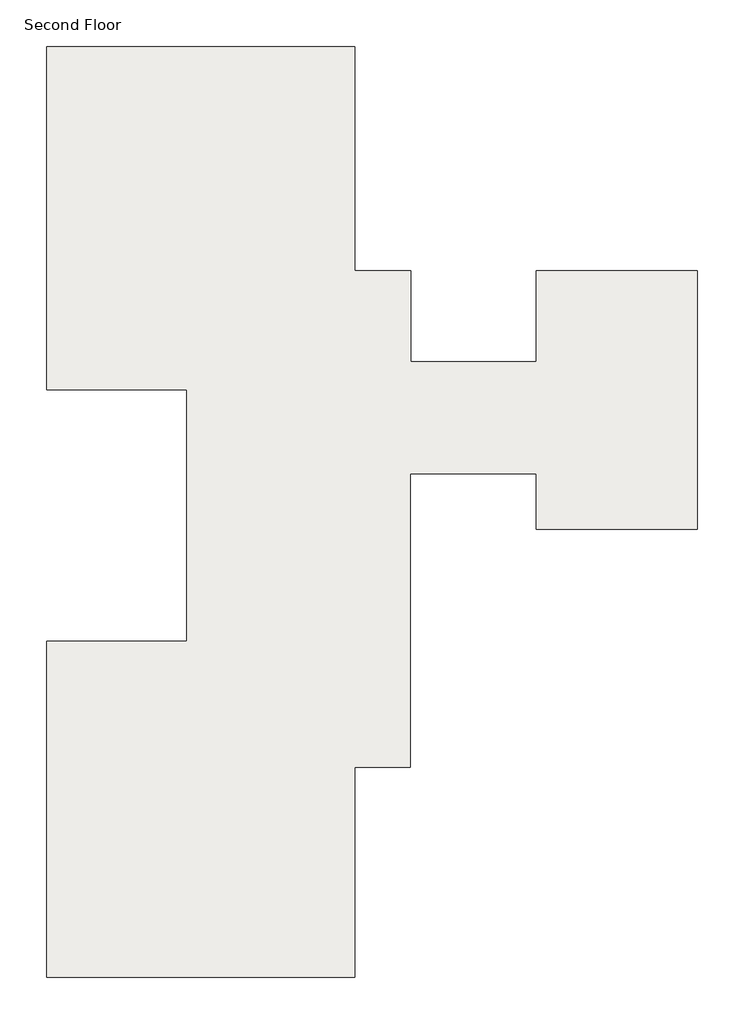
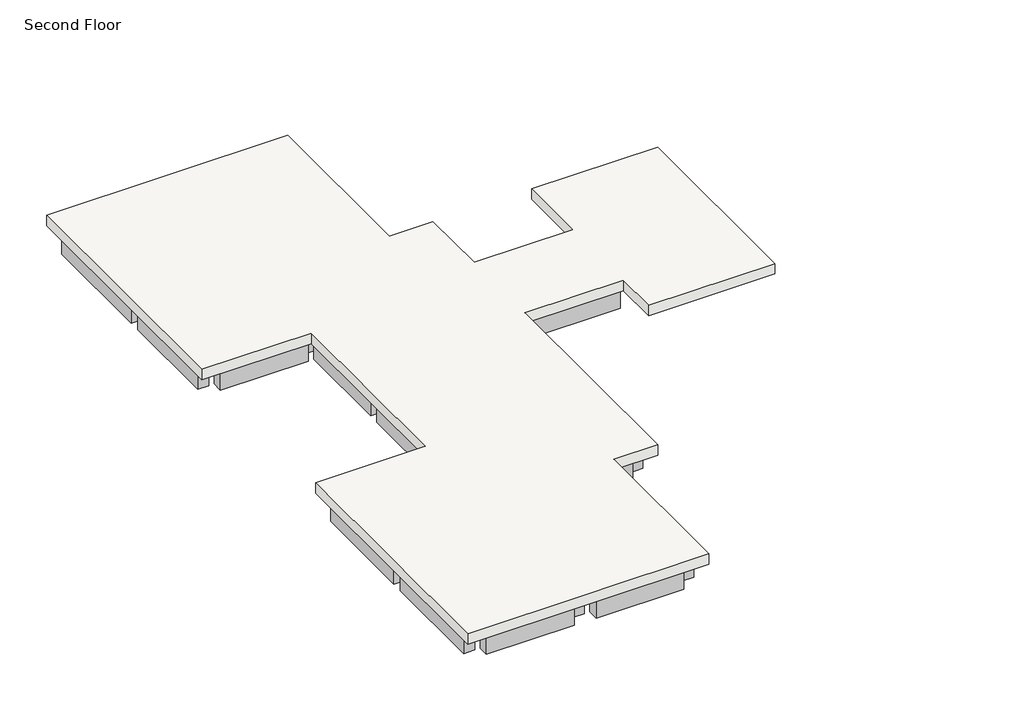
# One storey: 37 beams, 1 slab.
"""IFC4 building model written with IfcOpenShell, lengths in millimetres."""

from ifc_helpers import new_model, si_unit, frame, origin, place, context, project, spatial, polyline, outline, extrude, faceted_brep, element, save

model = new_model("IFC4")

# Units and contexts
model_context = context("Model", 3, world=origin())
ifc_project = project(units=[si_unit("LENGTHUNIT", "METRE", prefix="MILLI")], contexts=[model_context])

# Site, building, storey
site = spatial("IfcSite", under=ifc_project)
building = spatial("IfcBuilding", under=site)
storey = spatial("IfcBuildingStorey", under=building, Name="Second Floor", Elevation=3810.0)

# Beams
placement = place(None, origin())
element("IfcBeam", 1, ObjectType="Concrete-Rectangular Beam : 12 x 24", at=placement, inside=storey, context=model_context, shape_type="SweptSolid", body=[
    extrude(outline(polyline([(-12861.5073204, 23464.2572372), (-12861.5073204, 23769.0572372), (-10423.1073204, 23769.0572372), (-10423.1073204, 23464.2572372), (-12861.5073204, 23464.2572372)])), frame((0.0, 0.0, 2895.6), z_axis=(0.0, 0.0, 1.0), x_axis=(1.0, 0.0, 0.0)), (0.0, 0.0, 1.0), 609.6),
])
element("IfcBeam", 2, ObjectType="Concrete-Rectangular Beam : 12 x 24", at=placement, inside=storey, context=model_context, shape_type="SweptSolid", body=[
    extrude(outline(polyline([(-9813.5073204, 23464.2572372), (-9813.5073204, 23769.0572372), (-7375.1073204, 23769.0572372), (-7375.1073204, 23464.2572372), (-9813.5073204, 23464.2572372)])), frame((0.0, 0.0, 2895.6), z_axis=(0.0, 0.0, 1.0), x_axis=(1.0, 0.0, 0.0)), (0.0, 0.0, 1.0), 609.6),
])
element("IfcBeam", 3, ObjectType="Concrete-Rectangular Beam : 12 x 24", at=placement, inside=storey, context=model_context, shape_type="SweptSolid", body=[
    extrude(outline(polyline([(-7222.7073204, 23464.2572372), (-6917.9073204, 23464.2572372), (-6917.9073204, 20111.4572372), (-7222.7073204, 20111.4572372), (-7222.7073204, 23464.2572372)])), frame((0.0, 0.0, 2895.6), z_axis=(0.0, 0.0, 1.0), x_axis=(1.0, 0.0, 0.0)), (0.0, 0.0, 1.0), 609.6),
])
element("IfcBeam", 4, ObjectType="Concrete-Rectangular Beam : 12 x 24", at=placement, inside=storey, context=model_context, shape_type="SweptSolid", body=[
    extrude(outline(polyline([(-10270.7073204, 23464.2572372), (-9965.9073204, 23464.2572372), (-9965.9073204, 20111.4572372), (-10270.7073204, 20111.4572372), (-10270.7073204, 23464.2572372)])), frame((0.0, 0.0, 2895.6), z_axis=(0.0, 0.0, 1.0), x_axis=(1.0, 0.0, 0.0)), (0.0, 0.0, 1.0), 609.6),
])
element("IfcBeam", 5, ObjectType="Concrete-Rectangular Beam : 12 x 24", at=placement, inside=storey, context=model_context, shape_type="SweptSolid", body=[
    extrude(outline(polyline([(-13318.7073204, 23464.2572372), (-13013.9073204, 23464.2572372), (-13013.9073204, 20111.4572372), (-13318.7073204, 20111.4572372), (-13318.7073204, 23464.2572372)])), frame((0.0, 0.0, 2895.6), z_axis=(0.0, 0.0, 1.0), x_axis=(1.0, 0.0, 0.0)), (0.0, 0.0, 1.0), 609.6),
])
element("IfcBeam", 6, ObjectType="Concrete-Rectangular Beam : 12 x 24", at=placement, inside=storey, context=model_context, shape_type="SweptSolid", body=[
    extrude(outline(polyline([(-12861.5073204, 19806.6572372), (-12861.5073204, 20111.4572372), (-10423.1073204, 20111.4572372), (-10423.1073204, 19806.6572372), (-12861.5073204, 19806.6572372)])), frame((0.0, 0.0, 2895.6), z_axis=(0.0, 0.0, 1.0), x_axis=(1.0, 0.0, 0.0)), (0.0, 0.0, 1.0), 609.6),
])
element("IfcBeam", 7, ObjectType="Concrete-Rectangular Beam : 12 x 24", at=placement, inside=storey, context=model_context, shape_type="SweptSolid", body=[
    extrude(outline(polyline([(-9813.5073204, 19806.6572372), (-9813.5073204, 20111.4572372), (-7375.1073204, 20111.4572372), (-7375.1073204, 19806.6572372), (-9813.5073204, 19806.6572372)])), frame((0.0, 0.0, 2895.6), z_axis=(0.0, 0.0, 1.0), x_axis=(1.0, 0.0, 0.0)), (0.0, 0.0, 1.0), 609.6),
])
element("IfcBeam", 8, ObjectType="Concrete-Rectangular Beam : 12 x 24", at=placement, inside=storey, context=model_context, shape_type="SweptSolid", body=[
    extrude(outline(polyline([(-13318.7073204, 19806.6572372), (-13013.9073204, 19806.6572372), (-13013.9073204, 16911.0572372), (-13318.7073204, 16911.0572372), (-13318.7073204, 19806.6572372)])), frame((0.0, 0.0, 2895.6), z_axis=(0.0, 0.0, 1.0), x_axis=(1.0, 0.0, 0.0)), (0.0, 0.0, 1.0), 609.6),
])
element("IfcBeam", 9, ObjectType="Concrete-Rectangular Beam : 12 x 24", at=placement, inside=storey, context=model_context, shape_type="SweptSolid", body=[
    extrude(outline(polyline([(-10270.7073204, 19806.6572372), (-9965.9073204, 19806.6572372), (-9965.9073204, 16911.0572372), (-10270.7073204, 16911.0572372), (-10270.7073204, 19806.6572372)])), frame((0.0, 0.0, 2895.6), z_axis=(0.0, 0.0, 1.0), x_axis=(1.0, 0.0, 0.0)), (0.0, 0.0, 1.0), 609.6),
])
element("IfcBeam", 10, ObjectType="Concrete-Rectangular Beam : 12 x 24", at=placement, inside=storey, context=model_context, shape_type="Brep", body=[
    faceted_brep([(-6917.9073204, 19806.6572372, 3505.2), (-7222.7073204, 19806.6572372, 3505.2), (-7222.7073204, 18588.1999409, 3505.2), (-6917.9073204, 18588.1999409, 3505.2), (-6917.9073204, 18892.9999409, 3505.2), (-7222.7073204, 19806.6572372, 2895.6), (-7222.7073204, 18588.1999409, 2895.6), (-6917.9073204, 19806.6572372, 2895.6), (-6917.9073204, 18892.9999409, 2895.6), (-6917.9073204, 18588.1999409, 2895.6)], [[[0, 1, 2, 3, 4]], [[1, 5, 6, 2]], [[5, 7, 8, 9, 6]], [[3, 9, 8, 7, 0, 4]], [[0, 7, 5, 1]], [[3, 2, 6, 9]]]),
])
element("IfcBeam", 11, ObjectType="Concrete-Rectangular Beam : 12 x 24", at=placement, inside=storey, context=model_context, shape_type="SweptSolid", body=[
    extrude(outline(polyline([(-6917.9073204, 18588.1999409), (-6917.9073204, 18892.9999409), (-6156.6500241, 18892.9999409), (-6156.6500241, 18588.1999409), (-6917.9073204, 18588.1999409)])), frame((0.0, 0.0, 2895.6), z_axis=(0.0, 0.0, 1.0), x_axis=(1.0, 0.0, 0.0)), (0.0, 0.0, 1.0), 609.6),
])
element("IfcBeam", 12, ObjectType="Concrete-Rectangular Beam : 12 x 24", at=placement, inside=storey, context=model_context, shape_type="SweptSolid", body=[
    extrude(outline(polyline([(-6004.2500241, 18588.1999409), (-5699.4500241, 18588.1999409), (-5699.4500241, 16911.0572372), (-6004.2500241, 16911.0572372), (-6004.2500241, 18588.1999409)])), frame((0.0, 0.0, 2895.6), z_axis=(0.0, 0.0, 1.0), x_axis=(1.0, 0.0, 0.0)), (0.0, 0.0, 1.0), 609.6),
])
element("IfcBeam", 13, ObjectType="Concrete-Rectangular Beam : 12 x 24", at=placement, inside=storey, context=model_context, shape_type="SweptSolid", body=[
    extrude(outline(polyline([(-9813.5073204, 16606.2572372), (-9813.5073204, 16911.0572372), (-6156.6500241, 16911.0572372), (-6156.6500241, 16606.2572372), (-9813.5073204, 16606.2572372)])), frame((0.0, 0.0, 2895.6), z_axis=(0.0, 0.0, 1.0), x_axis=(1.0, 0.0, 0.0)), (0.0, 0.0, 1.0), 609.6),
])
element("IfcBeam", 14, ObjectType="Concrete-Rectangular Beam : 12 x 24", at=placement, inside=storey, context=model_context, shape_type="SweptSolid", body=[
    extrude(outline(polyline([(-12861.5073204, 16606.2572372), (-12861.5073204, 16911.0572372), (-10423.1073204, 16911.0572372), (-10423.1073204, 16606.2572372), (-12861.5073204, 16606.2572372)])), frame((0.0, 0.0, 2895.6), z_axis=(0.0, 0.0, 1.0), x_axis=(1.0, 0.0, 0.0)), (0.0, 0.0, 1.0), 609.6),
])
element("IfcBeam", 15, ObjectType="Concrete-Rectangular Beam : 12 x 24", at=placement, inside=storey, context=model_context, shape_type="SweptSolid", body=[
    extrude(outline(polyline([(-2803.8500241, 16911.0572372), (-2803.8500241, 16606.2572372), (-5547.0500241, 16606.2572372), (-5547.0500241, 16911.0572372), (-2803.8500241, 16911.0572372)])), frame((0.0, 0.0, 2895.6), z_axis=(0.0, 0.0, 1.0), x_axis=(1.0, 0.0, 0.0)), (0.0, 0.0, 1.0), 609.6),
])
element("IfcBeam", 16, ObjectType="Concrete-Rectangular Beam : 12 x 24", at=placement, inside=storey, context=model_context, shape_type="Brep", body=[
    faceted_brep([(-5699.4500241, 16606.2572372, 3505.2), (-6004.2500241, 16606.2572372, 3505.2), (-6004.2500241, 13863.0572372, 3505.2), (-5699.4500241, 13863.0572372, 3505.2), (-5699.4500241, 14777.4572372, 3505.2), (-5699.4500241, 15082.2572372, 3505.2), (-6004.2500241, 16606.2572372, 2895.6), (-6004.2500241, 13863.0572372, 2895.6), (-5699.4500241, 16606.2572372, 2895.6), (-5699.4500241, 15082.2572372, 2895.6), (-5699.4500241, 14777.4572372, 2895.6), (-5699.4500241, 13863.0572372, 2895.6)], [[[0, 1, 2, 3, 4, 5]], [[1, 6, 7, 2]], [[6, 8, 9, 10, 11, 7]], [[8, 0, 5, 4, 3, 11, 10, 9]], [[6, 1, 0, 8]], [[3, 2, 7, 11]]]),
])
element("IfcBeam", 17, ObjectType="Concrete-Rectangular Beam : 12 x 24", at=placement, inside=storey, context=model_context, shape_type="SweptSolid", body=[
    extrude(outline(polyline([(-2803.8500241, 15082.2572372), (-2803.8500241, 14777.4572372), (-5699.4500241, 14777.4572372), (-5699.4500241, 15082.2572372), (-2803.8500241, 15082.2572372)])), frame((0.0, 0.0, 2895.6), z_axis=(0.0, 0.0, 1.0), x_axis=(1.0, 0.0, 0.0)), (0.0, 0.0, 1.0), 609.6),
])
element("IfcBeam", 18, ObjectType="Concrete-Rectangular Beam : 12 x 24", at=placement, inside=storey, context=model_context, shape_type="SweptSolid", body=[
    extrude(outline(polyline([(-10270.7073204, 16606.2572372), (-9965.9073204, 16606.2572372), (-9965.9073204, 13863.0572372), (-10270.7073204, 13863.0572372), (-10270.7073204, 16606.2572372)])), frame((0.0, 0.0, 2895.6), z_axis=(0.0, 0.0, 1.0), x_axis=(1.0, 0.0, 0.0)), (0.0, 0.0, 1.0), 609.6),
])
element("IfcBeam", 19, ObjectType="Concrete-Rectangular Beam : 12 x 24", at=placement, inside=storey, context=model_context, shape_type="SweptSolid", body=[
    extrude(outline(polyline([(-10270.7073204, 13558.2572372), (-9965.9073204, 13558.2572372), (-9965.9073204, 10815.0572372), (-10270.7073204, 10815.0572372), (-10270.7073204, 13558.2572372)])), frame((0.0, 0.0, 2895.6), z_axis=(0.0, 0.0, 1.0), x_axis=(1.0, 0.0, 0.0)), (0.0, 0.0, 1.0), 609.6),
])
element("IfcBeam", 20, ObjectType="Concrete-Rectangular Beam : 12 x 24", at=placement, inside=storey, context=model_context, shape_type="SweptSolid", body=[
    extrude(outline(polyline([(-9813.5073204, 10510.2572372), (-9813.5073204, 10815.0572372), (-6156.6500241, 10815.0572372), (-6156.6500241, 10510.2572372), (-9813.5073204, 10510.2572372)])), frame((0.0, 0.0, 2895.6), z_axis=(0.0, 0.0, 1.0), x_axis=(1.0, 0.0, 0.0)), (0.0, 0.0, 1.0), 609.6),
])
element("IfcBeam", 21, ObjectType="Concrete-Rectangular Beam : 12 x 24", at=placement, inside=storey, context=model_context, shape_type="SweptSolid", body=[
    extrude(outline(polyline([(-6156.6500241, 13863.0572372), (-6156.6500241, 13558.2572372), (-9813.5073204, 13558.2572372), (-9813.5073204, 13863.0572372), (-6156.6500241, 13863.0572372)])), frame((0.0, 0.0, 2895.6), z_axis=(0.0, 0.0, 1.0), x_axis=(1.0, 0.0, 0.0)), (0.0, 0.0, 1.0), 609.6),
])
element("IfcBeam", 22, ObjectType="Concrete-Rectangular Beam : 12 x 24", at=placement, inside=storey, context=model_context, shape_type="SweptSolid", body=[
    extrude(outline(polyline([(-5699.4500241, 10815.0572372), (-6004.2500241, 10815.0572372), (-6004.2500241, 13558.2572372), (-5699.4500241, 13558.2572372), (-5699.4500241, 10815.0572372)])), frame((0.0, 0.0, 2895.6), z_axis=(0.0, 0.0, 1.0), x_axis=(1.0, 0.0, 0.0)), (0.0, 0.0, 1.0), 609.6),
])
element("IfcBeam", 23, ObjectType="Concrete-Rectangular Beam : 12 x 24", at=placement, inside=storey, context=model_context, shape_type="SweptSolid", body=[
    extrude(outline(polyline([(-12861.5073204, 10510.2572372), (-12861.5073204, 10815.0572372), (-10423.1073204, 10815.0572372), (-10423.1073204, 10510.2572372), (-12861.5073204, 10510.2572372)])), frame((0.0, 0.0, 2895.6), z_axis=(0.0, 0.0, 1.0), x_axis=(1.0, 0.0, 0.0)), (0.0, 0.0, 1.0), 609.6),
])
element("IfcBeam", 24, ObjectType="Concrete-Rectangular Beam : 12 x 24", at=placement, inside=storey, context=model_context, shape_type="SweptSolid", body=[
    extrude(outline(polyline([(-13318.7073204, 10510.2572372), (-13013.9073204, 10510.2572372), (-13013.9073204, 7462.2572372), (-13318.7073204, 7462.2572372), (-13318.7073204, 10510.2572372)])), frame((0.0, 0.0, 2895.6), z_axis=(0.0, 0.0, 1.0), x_axis=(1.0, 0.0, 0.0)), (0.0, 0.0, 1.0), 609.6),
])
element("IfcBeam", 25, ObjectType="Concrete-Rectangular Beam : 12 x 24", at=placement, inside=storey, context=model_context, shape_type="SweptSolid", body=[
    extrude(outline(polyline([(-10270.7073204, 10510.2572372), (-9965.9073204, 10510.2572372), (-9965.9073204, 7462.2572372), (-10270.7073204, 7462.2572372), (-10270.7073204, 10510.2572372)])), frame((0.0, 0.0, 2895.6), z_axis=(0.0, 0.0, 1.0), x_axis=(1.0, 0.0, 0.0)), (0.0, 0.0, 1.0), 609.6),
])
element("IfcBeam", 26, ObjectType="Concrete-Rectangular Beam : 12 x 24", at=placement, inside=storey, context=model_context, shape_type="SweptSolid", body=[
    extrude(outline(polyline([(-6004.2500241, 10510.2572372), (-5699.4500241, 10510.2572372), (-5699.4500241, 8681.4572372), (-6004.2500241, 8681.4572372), (-6004.2500241, 10510.2572372)])), frame((0.0, 0.0, 2895.6), z_axis=(0.0, 0.0, 1.0), x_axis=(1.0, 0.0, 0.0)), (0.0, 0.0, 1.0), 609.6),
])
element("IfcBeam", 27, ObjectType="Concrete-Rectangular Beam : 12 x 24", at=placement, inside=storey, context=model_context, shape_type="Brep", body=[
    faceted_brep([(-7223.4500241, 8681.4572372, 3505.2), (-7223.4500241, 8376.6572372, 3505.2), (-6918.6500241, 8376.6572372, 3505.2), (-6156.6500241, 8376.6572372, 3505.2), (-6156.6500241, 8681.4572372, 3505.2), (-7223.4500241, 8681.4572372, 2895.6), (-6156.6500241, 8681.4572372, 2895.6), (-7223.4500241, 8376.6572372, 2895.6), (-6156.6500241, 8376.6572372, 2895.6), (-6918.6500241, 8376.6572372, 2895.6)], [[[0, 1, 2, 3, 4]], [[5, 0, 4, 6]], [[7, 5, 6, 8, 9]], [[1, 7, 9, 8, 3, 2]], [[4, 3, 8, 6]], [[1, 0, 5, 7]]]),
])
element("IfcBeam", 28, ObjectType="Concrete-Rectangular Beam : 12 x 24", at=placement, inside=storey, context=model_context, shape_type="SweptSolid", body=[
    extrude(outline(polyline([(-7223.4500241, 8376.6572372), (-6918.6500241, 8376.6572372), (-6918.6500241, 7462.2572372), (-7223.4500241, 7462.2572372), (-7223.4500241, 8376.6572372)])), frame((0.0, 0.0, 2895.6), z_axis=(0.0, 0.0, 1.0), x_axis=(1.0, 0.0, 0.0)), (0.0, 0.0, 1.0), 609.6),
])
element("IfcBeam", 29, ObjectType="Concrete-Rectangular Beam : 12 x 24", at=placement, inside=storey, context=model_context, shape_type="SweptSolid", body=[
    extrude(outline(polyline([(-7375.8500241, 7462.2572372), (-7375.8500241, 7157.4572372), (-9813.5073204, 7157.4572372), (-9813.5073204, 7462.2572372), (-7375.8500241, 7462.2572372)])), frame((0.0, 0.0, 2895.6), z_axis=(0.0, 0.0, 1.0), x_axis=(1.0, 0.0, 0.0)), (0.0, 0.0, 1.0), 609.6),
])
element("IfcBeam", 30, ObjectType="Concrete-Rectangular Beam : 12 x 24", at=placement, inside=storey, context=model_context, shape_type="SweptSolid", body=[
    extrude(outline(polyline([(-10423.1073204, 7462.2572372), (-10423.1073204, 7157.4572372), (-12861.5073204, 7157.4572372), (-12861.5073204, 7462.2572372), (-10423.1073204, 7462.2572372)])), frame((0.0, 0.0, 2895.6), z_axis=(0.0, 0.0, 1.0), x_axis=(1.0, 0.0, 0.0)), (0.0, 0.0, 1.0), 609.6),
])
element("IfcBeam", 31, ObjectType="Concrete-Rectangular Beam : 12 x 24", at=placement, inside=storey, context=model_context, shape_type="SweptSolid", body=[
    extrude(outline(polyline([(-13318.7073204, 7157.4572372), (-13013.9073204, 7157.4572372), (-13013.9073204, 4109.4572372), (-13318.7073204, 4109.4572372), (-13318.7073204, 7157.4572372)])), frame((0.0, 0.0, 2895.6), z_axis=(0.0, 0.0, 1.0), x_axis=(1.0, 0.0, 0.0)), (0.0, 0.0, 1.0), 609.6),
])
element("IfcBeam", 32, ObjectType="Concrete-Rectangular Beam : 12 x 24", at=placement, inside=storey, context=model_context, shape_type="SweptSolid", body=[
    extrude(outline(polyline([(-10270.7073204, 7157.4572372), (-9965.9073204, 7157.4572372), (-9965.9073204, 4109.4572372), (-10270.7073204, 4109.4572372), (-10270.7073204, 7157.4572372)])), frame((0.0, 0.0, 2895.6), z_axis=(0.0, 0.0, 1.0), x_axis=(1.0, 0.0, 0.0)), (0.0, 0.0, 1.0), 609.6),
])
element("IfcBeam", 33, ObjectType="Concrete-Rectangular Beam : 12 x 24", at=placement, inside=storey, context=model_context, shape_type="SweptSolid", body=[
    extrude(outline(polyline([(-7223.4500241, 7157.4572372), (-6918.6500241, 7157.4572372), (-6918.6500241, 4109.4572372), (-7223.4500241, 4109.4572372), (-7223.4500241, 7157.4572372)])), frame((0.0, 0.0, 2895.6), z_axis=(0.0, 0.0, 1.0), x_axis=(1.0, 0.0, 0.0)), (0.0, 0.0, 1.0), 609.6),
])
element("IfcBeam", 34, ObjectType="Concrete-Rectangular Beam : 12 x 24", at=placement, inside=storey, context=model_context, shape_type="SweptSolid", body=[
    extrude(outline(polyline([(-9813.5073204, 3804.6572372), (-9813.5073204, 4109.4572372), (-7375.1073204, 4109.4572372), (-7375.1073204, 3804.6572372), (-9813.5073204, 3804.6572372)])), frame((0.0, 0.0, 2895.6), z_axis=(0.0, 0.0, 1.0), x_axis=(1.0, 0.0, 0.0)), (0.0, 0.0, 1.0), 609.6),
])
element("IfcBeam", 35, ObjectType="Concrete-Rectangular Beam : 12 x 24", at=placement, inside=storey, context=model_context, shape_type="SweptSolid", body=[
    extrude(outline(polyline([(-12861.5073204, 3804.6572372), (-12861.5073204, 4109.4572372), (-10423.1073204, 4109.4572372), (-10423.1073204, 3804.6572372), (-12861.5073204, 3804.6572372)])), frame((0.0, 0.0, 2895.6), z_axis=(0.0, 0.0, 1.0), x_axis=(1.0, 0.0, 0.0)), (0.0, 0.0, 1.0), 609.6),
])
element("IfcBeam", 36, ObjectType="Concrete-Rectangular Beam : 12 x 24", at=placement, inside=storey, context=model_context, shape_type="SweptSolid", body=[
    extrude(outline(polyline([(-2194.2500241, 16606.2572372), (-2194.2500241, 16911.0572372), (89.9860546, 16911.0572372), (89.9860546, 16606.2572372), (-2194.2500241, 16606.2572372)])), frame((0.0, 0.0, 2895.6), z_axis=(0.0, 0.0, 1.0), x_axis=(1.0, 0.0, 0.0)), (0.0, 0.0, 1.0), 609.6),
])
element("IfcBeam", 37, ObjectType="Concrete-Rectangular Beam : 12 x 24", at=placement, inside=storey, context=model_context, shape_type="SweptSolid", body=[
    extrude(outline(polyline([(89.9860546, 15082.2572372), (89.9860546, 14777.4572372), (-2194.2500241, 14777.4572372), (-2194.2500241, 15082.2572372), (89.9860546, 15082.2572372)])), frame((0.0, 0.0, 2895.6), z_axis=(0.0, 0.0, 1.0), x_axis=(1.0, 0.0, 0.0)), (0.0, 0.0, 1.0), 609.6),
])

# Slab
element("IfcSlab", 38, ObjectType="Generic - 12\"", at=placement, inside=storey, context=model_context, shape_type="Brep", body=[
    faceted_brep([(-6765.5073204, 23921.4572372, 3505.2), (-6765.5073204, 23769.0572372, 3505.2), (-6765.5073204, 23464.2572372, 3505.2), (-6765.5073204, 20111.4572372, 3505.2), (-6765.5073204, 19806.6572372, 3505.2), (-6765.5073204, 19044.6572372, 3505.2), (-5546.3073204, 19044.6572372, 3505.2), (-5546.3073204, 17063.4572372, 3505.2), (-2803.8500241, 17063.4572372, 3505.2), (-2803.8500241, 19044.6572372, 3505.2), (699.5860546, 19044.6572372, 3505.2), (699.5860546, 16911.0572372, 3505.2), (699.5860546, 16606.2572372, 3505.2), (699.5860546, 15082.2572372, 3505.2), (699.5860546, 14777.4572372, 3505.2), (699.5860546, 13405.8572372, 3505.2), (-2803.8500241, 13405.8572372, 3505.2), (-2803.8500241, 14625.0572372, 3505.2), (-5547.0500241, 14625.0572372, 3505.2), (-5547.0500241, 13863.0572372, 3505.2), (-5547.0500241, 13558.2572372, 3505.2), (-5547.0500241, 10815.0572372, 3505.2), (-5547.0500241, 10510.2572372, 3505.2), (-5547.0500241, 8681.4572372, 3505.2), (-5547.0500241, 8376.6572372, 3505.2), (-5547.0500241, 8224.2572372, 3505.2), (-6765.5073204, 8224.2572372, 3505.2), (-6765.5073204, 4109.4572372, 3505.2), (-6765.5073204, 3804.6572372, 3505.2), (-6765.5073204, 3652.2572372, 3505.2), (-13471.1073204, 3652.2572372, 3505.2), (-13471.1073204, 3804.6572372, 3505.2), (-13471.1073204, 4109.4572372, 3505.2), (-13471.1073204, 7157.4572372, 3505.2), (-13471.1073204, 7462.2572372, 3505.2), (-13471.1073204, 10510.2572372, 3505.2), (-13471.1073204, 10815.0572372, 3505.2), (-13471.1073204, 10967.4572372, 3505.2), (-10423.1073204, 10967.4572372, 3505.2), (-10423.1073204, 13558.2572372, 3505.2), (-10423.1073204, 13863.0572372, 3505.2), (-10423.1073204, 16453.8572372, 3505.2), (-13471.1073204, 16453.8572372, 3505.2), (-13471.1073204, 16606.2572372, 3505.2), (-13471.1073204, 16911.0572372, 3505.2), (-13471.1073204, 19806.6572372, 3505.2), (-13471.1073204, 20111.4572372, 3505.2), (-13471.1073204, 23464.2572372, 3505.2), (-13471.1073204, 23769.0572372, 3505.2), (-13471.1073204, 23921.4572372, 3505.2), (-6765.5073204, 23921.4572372, 3810.0), (-13471.1073204, 23921.4572372, 3810.0), (-13471.1073204, 16453.8572372, 3810.0), (-10423.1073204, 16453.8572372, 3810.0), (-10423.1073204, 10967.4572372, 3810.0), (-13471.1073204, 10967.4572372, 3810.0), (-13471.1073204, 3652.2572372, 3810.0), (-6765.5073204, 3652.2572372, 3810.0), (-6765.5073204, 8224.2572372, 3810.0), (-5547.0500241, 8224.2572372, 3810.0), (-5547.0500241, 14625.0572372, 3810.0), (-2803.8500241, 14625.0572372, 3810.0), (-2803.8500241, 13405.8572372, 3810.0), (699.5860546, 13405.8572372, 3810.0), (699.5860546, 19044.6572372, 3810.0), (-2803.8500241, 19044.6572372, 3810.0), (-2803.8500241, 17063.4572372, 3810.0), (-5546.3073204, 17063.4572372, 3810.0), (-5546.3073204, 19044.6572372, 3810.0), (-6765.5073204, 19044.6572372, 3810.0)], [[[0, 1, 2, 3, 4, 5, 6, 7, 8, 9, 10, 11, 12, 13, 14, 15, 16, 17, 18, 19, 20, 21, 22, 23, 24, 25, 26, 27, 28, 29, 30, 31, 32, 33, 34, 35, 36, 37, 38, 39, 40, 41, 42, 43, 44, 45, 46, 47, 48, 49]], [[50, 51, 52, 53, 54, 55, 56, 57, 58, 59, 60, 61, 62, 63, 64, 65, 66, 67, 68, 69]], [[5, 4, 3, 2, 1, 0, 50, 69]], [[6, 5, 69, 68]], [[7, 6, 68, 67]], [[8, 7, 67, 66]], [[9, 8, 66, 65]], [[10, 9, 65, 64]], [[15, 14, 13, 12, 11, 10, 64, 63]], [[16, 15, 63, 62]], [[17, 16, 62, 61]], [[18, 17, 61, 60]], [[25, 24, 23, 22, 21, 20, 19, 18, 60, 59]], [[26, 25, 59, 58]], [[29, 28, 27, 26, 58, 57]], [[30, 29, 57, 56]], [[37, 36, 35, 34, 33, 32, 31, 30, 56, 55]], [[38, 37, 55, 54]], [[41, 40, 39, 38, 54, 53]], [[42, 41, 53, 52]], [[49, 48, 47, 46, 45, 44, 43, 42, 52, 51]], [[0, 49, 51, 50]]]),
])

save(model, "model.ifc")
